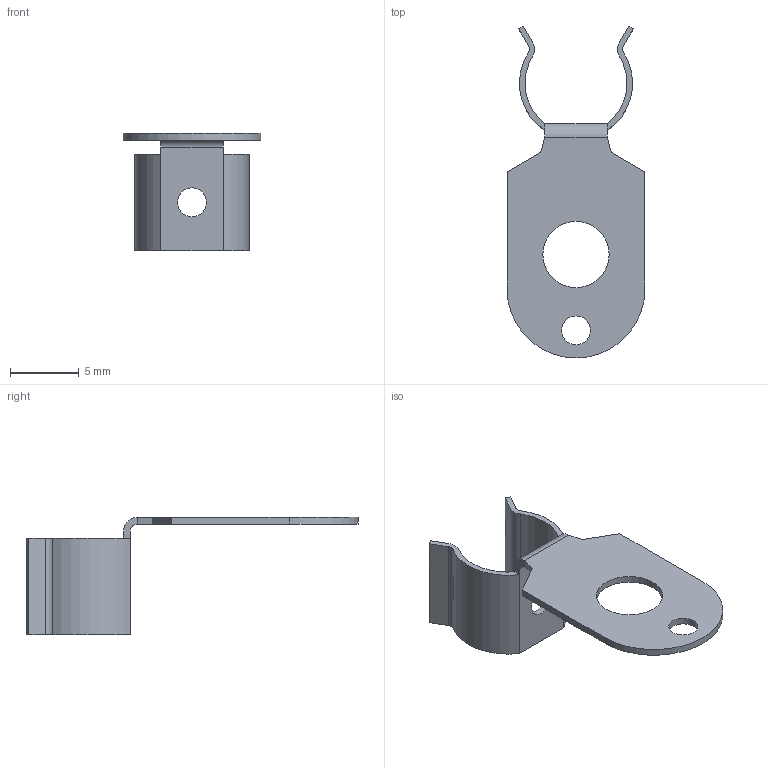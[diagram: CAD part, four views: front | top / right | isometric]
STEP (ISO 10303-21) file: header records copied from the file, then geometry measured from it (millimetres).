
FILE_DESCRIPTION(/* description */ (''),/* implementation_level */ '2;1');
FILE_NAME(/* name */ 'Držák 586506.stp',/* time_stamp */ '2024-05-29T12:37:43+02:00',/* author */ ('Jerabek'),/* organization */ ('OEZ'),/* preprocessor_version */ 'ST-DEVELOPER v18.101',/* originating_system */ 'SIEMENS PLM Software NX 2008',/* authorisation */ '');
FILE_SCHEMA (('AUTOMOTIVE_DESIGN { 1 0 10303 214 3 1 1 1 }'));
Length unit declared in the file: millimetre
Products named in the file (1): Držák 586506
Bounding box: 10 x 24.07 x 8.5 mm (x, y, z)
Volume: 123.1 mm3; surface area: 606.8 mm2
Topology: 3 solids, 3 shells, 39 faces, 95 edges, 63 vertices
Faces by surface type: plane 25, cylinder 14
Full cylindrical faces by diameter (mm): 2.1 x2, 4.8 x1
Entity records: 1204 total; most frequent: DIRECTION 202, CARTESIAN_POINT 196, ORIENTED_EDGE 184, EDGE_CURVE 92, AXIS2_PLACEMENT_3D 69, LINE 64, VECTOR 64, VERTEX_POINT 62
